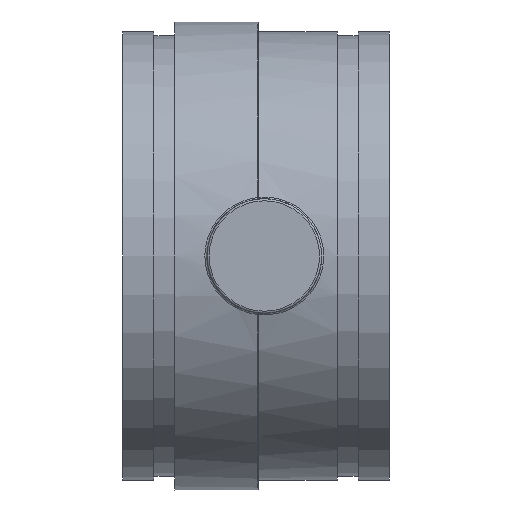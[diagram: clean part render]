
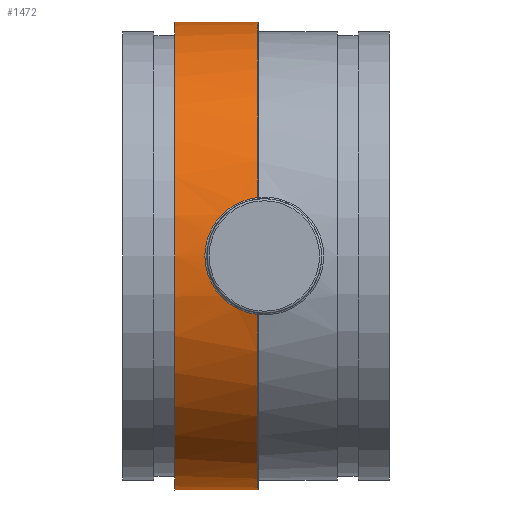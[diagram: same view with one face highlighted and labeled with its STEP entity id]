
A CAD part, front view. The second image highlights one B-rep face of the part: STEP entity #1472.
In plain terms, the highlighted cylindrical face has radius 142.494 mm (diameter 284.988 mm), a full revolution.
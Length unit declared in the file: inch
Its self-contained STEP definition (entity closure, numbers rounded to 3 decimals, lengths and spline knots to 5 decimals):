
#83=B_SPLINE_CURVE_WITH_KNOTS('',3,(#2794,#2795,#2796,#2797,#2798,#2799,
#2800),.UNSPECIFIED.,.F.,.F.,(4,1,1,1,4),(-10.60253,-9.08788,
-7.57324,-6.05859,-5.30132),.UNSPECIFIED.);
#84=B_SPLINE_CURVE_WITH_KNOTS('',3,(#2801,#2802,#2803,#2804,#2805,#2806,
#2807),.UNSPECIFIED.,.F.,.F.,(4,1,1,1,4),(-5.30126,-4.54394,
-3.02929,-1.51465,0.),
 .UNSPECIFIED.);
#90=B_SPLINE_CURVE_WITH_KNOTS('',3,(#2965,#2966,#2967,#2968,#2969),
 .UNSPECIFIED.,.F.,.F.,(4,1,4),(0.,0.10366,0.24186),
 .UNSPECIFIED.);
#91=B_SPLINE_CURVE_WITH_KNOTS('',3,(#2973,#2974,#2975,#2976,#2977),
 .UNSPECIFIED.,.F.,.F.,(4,1,4),(0.,0.13821,0.24186),
 .UNSPECIFIED.);
#193=FACE_OUTER_BOUND('',#283,.T.);
#283=EDGE_LOOP('',(#1136,#1137,#1138,#1139,#1140,#1141,#1142,#1143,#1144,
#1145,#1146,#1147,#1148));
#383=LINE('',#2963,#448);
#384=LINE('',#2979,#449);
#385=LINE('',#2982,#450);
#448=VECTOR('',#1983,0.3937);
#449=VECTOR('',#1986,0.3937);
#450=VECTOR('',#1989,5.61);
#519=CIRCLE('',#1630,5.61);
#520=CIRCLE('',#1631,5.61);
#521=CIRCLE('',#1632,5.61);
#522=CIRCLE('',#1633,5.61);
#523=CIRCLE('',#1634,5.61);
#638=VERTEX_POINT('',#2716);
#640=VERTEX_POINT('',#2791);
#641=VERTEX_POINT('',#2793);
#661=VERTEX_POINT('',#2960);
#662=VERTEX_POINT('',#2962);
#663=VERTEX_POINT('',#2964);
#664=VERTEX_POINT('',#2970);
#665=VERTEX_POINT('',#2972);
#666=VERTEX_POINT('',#2978);
#667=VERTEX_POINT('',#2981);
#668=VERTEX_POINT('',#2983);
#803=EDGE_CURVE('',#640,#641,#83,.T.);
#804=EDGE_CURVE('',#641,#638,#84,.T.);
#836=EDGE_CURVE('',#661,#640,#519,.T.);
#837=EDGE_CURVE('',#662,#661,#383,.T.);
#838=EDGE_CURVE('',#663,#662,#90,.T.);
#839=EDGE_CURVE('',#664,#663,#520,.T.);
#840=EDGE_CURVE('',#665,#664,#91,.T.);
#841=EDGE_CURVE('',#666,#665,#384,.T.);
#842=EDGE_CURVE('',#638,#666,#521,.T.);
#843=EDGE_CURVE('',#641,#667,#385,.T.);
#844=EDGE_CURVE('',#667,#668,#522,.T.);
#845=EDGE_CURVE('',#668,#667,#523,.T.);
#1136=ORIENTED_EDGE('',*,*,#803,.F.);
#1137=ORIENTED_EDGE('',*,*,#836,.F.);
#1138=ORIENTED_EDGE('',*,*,#837,.F.);
#1139=ORIENTED_EDGE('',*,*,#838,.F.);
#1140=ORIENTED_EDGE('',*,*,#839,.F.);
#1141=ORIENTED_EDGE('',*,*,#840,.F.);
#1142=ORIENTED_EDGE('',*,*,#841,.F.);
#1143=ORIENTED_EDGE('',*,*,#842,.F.);
#1144=ORIENTED_EDGE('',*,*,#804,.F.);
#1145=ORIENTED_EDGE('',*,*,#843,.T.);
#1146=ORIENTED_EDGE('',*,*,#844,.T.);
#1147=ORIENTED_EDGE('',*,*,#845,.T.);
#1148=ORIENTED_EDGE('',*,*,#843,.F.);
#1324=CYLINDRICAL_SURFACE('',#1629,5.61);
#1472=ADVANCED_FACE('',(#193),#1324,.T.);
#1629=AXIS2_PLACEMENT_3D('',#2959,#1979,#1980);
#1630=AXIS2_PLACEMENT_3D('',#2961,#1981,#1982);
#1631=AXIS2_PLACEMENT_3D('',#2971,#1984,#1985);
#1632=AXIS2_PLACEMENT_3D('',#2980,#1987,#1988);
#1633=AXIS2_PLACEMENT_3D('',#2984,#1990,#1991);
#1634=AXIS2_PLACEMENT_3D('',#2985,#1992,#1993);
#1979=DIRECTION('center_axis',(1.,0.,0.));
#1980=DIRECTION('ref_axis',(0.,1.,0.));
#1981=DIRECTION('center_axis',(1.,0.,0.));
#1982=DIRECTION('ref_axis',(0.,-1.,0.));
#1983=DIRECTION('',(1.,0.,0.));
#1984=DIRECTION('center_axis',(1.,0.,0.));
#1985=DIRECTION('ref_axis',(0.,1.,0.));
#1986=DIRECTION('',(-1.,0.,0.));
#1987=DIRECTION('center_axis',(1.,0.,0.));
#1988=DIRECTION('ref_axis',(0.,-1.,0.));
#1989=DIRECTION('',(-1.,0.,0.));
#1990=DIRECTION('center_axis',(1.,0.,0.));
#1991=DIRECTION('ref_axis',(0.,0.,1.));
#1992=DIRECTION('center_axis',(1.,0.,0.));
#1993=DIRECTION('ref_axis',(0.,0.,1.));
#2716=CARTESIAN_POINT('',(-0.16,-5.43161,-1.40348));
#2791=CARTESIAN_POINT('',(-0.16,-5.43161,1.40348));
#2793=CARTESIAN_POINT('',(-1.425,-5.61,0.));
#2794=CARTESIAN_POINT('Ctrl Pts',(-0.16,-5.43161,1.40348));
#2795=CARTESIAN_POINT('Ctrl Pts',(-0.35743,-5.43732,
1.38137));
#2796=CARTESIAN_POINT('Ctrl Pts',(-0.74163,-5.47077,
1.25406));
#2797=CARTESIAN_POINT('Ctrl Pts',(-1.18828,-5.55225,0.85189));
#2798=CARTESIAN_POINT('Ctrl Pts',(-1.39397,-5.60235,0.39416));
#2799=CARTESIAN_POINT('Ctrl Pts',(-1.42488,-5.60991,0.09854));
#2800=CARTESIAN_POINT('Ctrl Pts',(-1.4249,-5.60992,0.));
#2801=CARTESIAN_POINT('Ctrl Pts',(-1.4249,-5.60992,-0.00002));
#2802=CARTESIAN_POINT('Ctrl Pts',(-1.42491,-5.60993,-0.09857));
#2803=CARTESIAN_POINT('Ctrl Pts',(-1.39408,-5.60244,-0.39419));
#2804=CARTESIAN_POINT('Ctrl Pts',(-1.18822,-5.5522,-0.85186));
#2805=CARTESIAN_POINT('Ctrl Pts',(-0.74164,-5.47078,
-1.25405));
#2806=CARTESIAN_POINT('Ctrl Pts',(-0.35743,-5.43732,
-1.38137));
#2807=CARTESIAN_POINT('Ctrl Pts',(-0.16,-5.43161,-1.40348));
#2959=CARTESIAN_POINT('Origin',(-1.15,0.,0.));
#2960=CARTESIAN_POINT('',(-0.16,5.4892,1.15794));
#2961=CARTESIAN_POINT('Origin',(-0.16,0.,0.));
#2962=CARTESIAN_POINT('',(-1.1,5.4892,1.15794));
#2963=CARTESIAN_POINT('',(-1.15,5.4892,1.15794));
#2964=CARTESIAN_POINT('',(-1.16,5.50149,1.09804));
#2965=CARTESIAN_POINT('Ctrl Pts',(-1.16,5.50149,1.09804));
#2966=CARTESIAN_POINT('Ctrl Pts',(-1.16,5.49883,1.11136));
#2967=CARTESIAN_POINT('Ctrl Pts',(-1.14933,5.49248,1.14251));
#2968=CARTESIAN_POINT('Ctrl Pts',(-1.11814,5.4892,1.15794));
#2969=CARTESIAN_POINT('Ctrl Pts',(-1.1,5.4892,1.15794));
#2970=CARTESIAN_POINT('',(-1.16,5.50149,-1.09804));
#2971=CARTESIAN_POINT('Origin',(-1.16,0.,0.));
#2972=CARTESIAN_POINT('',(-1.1,5.4892,-1.15794));
#2973=CARTESIAN_POINT('Ctrl Pts',(-1.1,5.4892,-1.15794));
#2974=CARTESIAN_POINT('Ctrl Pts',(-1.11814,5.4892,-1.15794));
#2975=CARTESIAN_POINT('Ctrl Pts',(-1.14933,5.49247,-1.14251));
#2976=CARTESIAN_POINT('Ctrl Pts',(-1.16,5.49883,-1.11136));
#2977=CARTESIAN_POINT('Ctrl Pts',(-1.16,5.50149,-1.09804));
#2978=CARTESIAN_POINT('',(-0.16,5.4892,-1.15794));
#2979=CARTESIAN_POINT('',(-1.15,5.4892,-1.15794));
#2980=CARTESIAN_POINT('Origin',(-0.16,0.,0.));
#2981=CARTESIAN_POINT('',(-2.15,-5.61,0.));
#2982=CARTESIAN_POINT('',(-1.15,-5.61,0.));
#2983=CARTESIAN_POINT('',(-2.15,5.61,0.));
#2984=CARTESIAN_POINT('Origin',(-2.15,0.,0.));
#2985=CARTESIAN_POINT('Origin',(-2.15,0.,0.));
